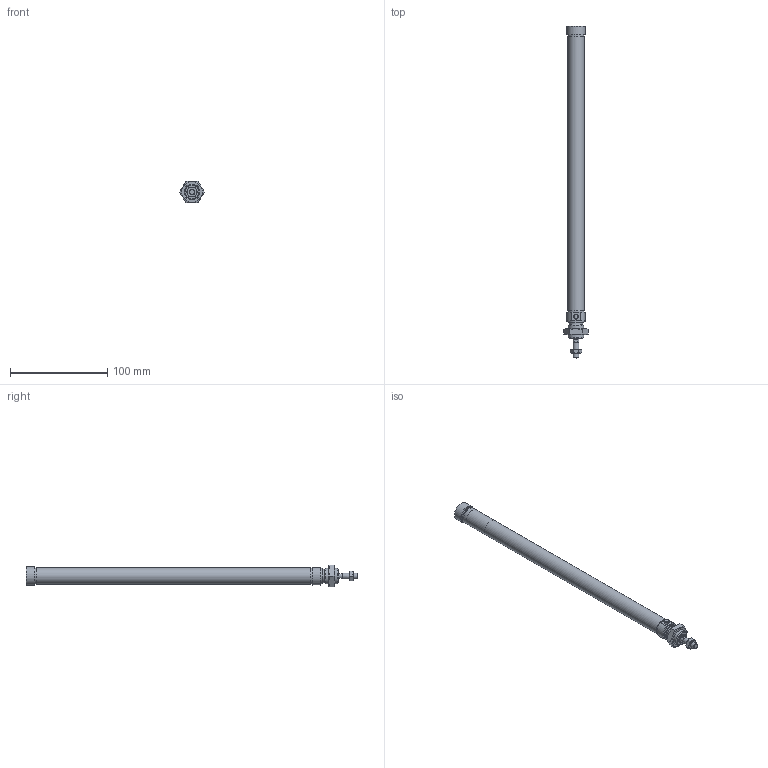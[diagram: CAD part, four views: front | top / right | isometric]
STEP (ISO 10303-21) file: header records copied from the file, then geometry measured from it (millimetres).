
FILE_DESCRIPTION(/* description */ ('Unknown'),/* implementation_level */ '2;1');
FILE_NAME(/* name */ 'RIMA 16_250',/* time_stamp */ '2024-08-30T11:23:05+02:00',/* author */ ('Unknown'),/* organization */ ('Unknown'),/* preprocessor_version */ 'ST-DEVELOPER v16.7',/* originating_system */ 'Solid Edge',/* authorisation */ 'Unknown');
FILE_SCHEMA (('AUTOMOTIVE_DESIGN {1 0 10303 214 3 1 1}'));
Length unit declared in the file: millimetre
Products named in the file (7): RIMA 16_250; Profilrohr; Kolbenstange; Kit_1; Kit_2; Mutter_1; Mutter_2
Assembly tree (6 placements, depth 2):
  RIMA 16_250
    Profilrohr
    Kolbenstange
    Kit_1
    Kit_2
    Mutter_1
    Mutter_2
Bounding box: 25.4 x 341 x 22 mm (x, y, z)
Volume: 34627.4 mm3; surface area: 42772.3 mm2
Topology: 6 solids, 6 shells, 119 faces, 236 edges, 145 vertices
Faces by surface type: plane 48, cone 36, cylinder 28, torus 7
Full cylindrical faces by diameter (mm): 1.1 x1, 4.12 x2, 4.134 x2, 4.917 x1, 6 x2, 6.5 x1, 7.1 x1, 9 x1, 9.1 x1, 11.1 x1, 11.2 x1, 13.7 x1, 14.376 x1, 14.5 x1, 16 x5, 17.2 x2, 17.27 x1, 19 x1
Entity records: 3594 total; most frequent: CARTESIAN_POINT 516, DIRECTION 482, ORIENTED_EDGE 334, AXIS2_PLACEMENT_3D 226, EDGE_LOOP 200, FACE_BOUND 200, EDGE_CURVE 167, VERTEX_POINT 133
